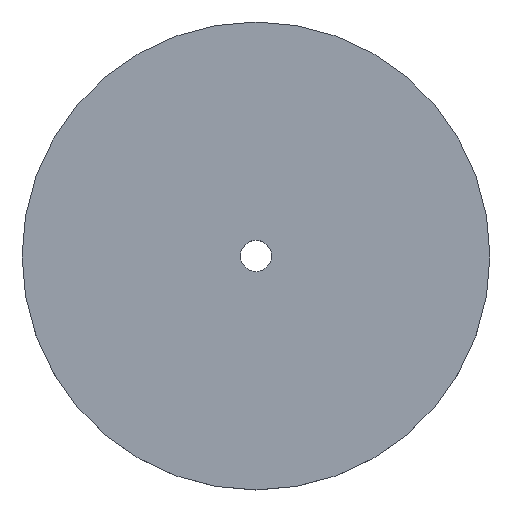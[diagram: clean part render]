
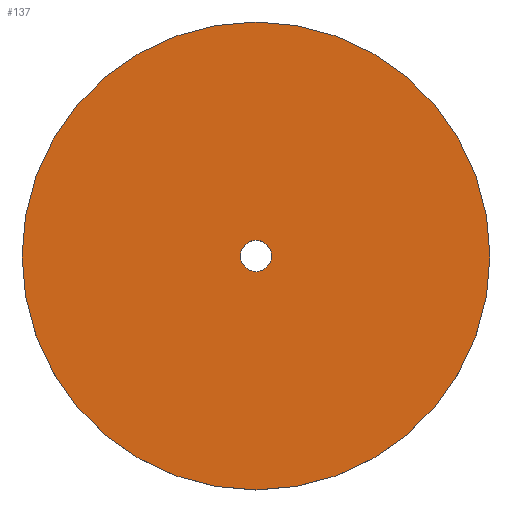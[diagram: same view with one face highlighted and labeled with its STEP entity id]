
A CAD part, top view. The second image highlights one B-rep face of the part: STEP entity #137.
In plain terms, the highlighted planar face has unit normal (0, 0, 1).
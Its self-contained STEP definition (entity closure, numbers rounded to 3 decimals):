
#3 = DIRECTION ( 'NONE',  ( 1., 0., 0. ) ) ;
#15 = CARTESIAN_POINT ( 'NONE',  ( 0., 0., 2. ) ) ;
#22 = DIRECTION ( 'NONE',  ( 0., 0., 1. ) ) ;
#23 = CARTESIAN_POINT ( 'NONE',  ( 0., 0., 2. ) ) ;
#26 = DIRECTION ( 'NONE',  ( 0., 0., 1. ) ) ;
#28 = DIRECTION ( 'NONE',  ( 1., 0., 0. ) ) ;
#35 = DIRECTION ( 'NONE',  ( 0., 0., 1. ) ) ;
#39 = CARTESIAN_POINT ( 'NONE',  ( 1., 0., 2. ) ) ;
#40 = DIRECTION ( 'NONE',  ( 1., 0., 0. ) ) ;
#41 = DIRECTION ( 'NONE',  ( 0., 0., 1. ) ) ;
#48 = PLANE ( 'NONE',  #110 ) ;
#50 = CARTESIAN_POINT ( 'NONE',  ( 0., 0., 2. ) ) ;
#54 = CARTESIAN_POINT ( 'NONE',  ( 0., 0., 2. ) ) ;
#56 = DIRECTION ( 'NONE',  ( 1., 0., 0. ) ) ;
#58 = CARTESIAN_POINT ( 'NONE',  ( 15., 0., 2. ) ) ;
#59 = CARTESIAN_POINT ( 'NONE',  ( 0., 0., 2. ) ) ;
#60 = CARTESIAN_POINT ( 'NONE',  ( -15., 0., 2. ) ) ;
#61 = CARTESIAN_POINT ( 'NONE',  ( -1., 0., 2. ) ) ;
#63 = DIRECTION ( 'NONE',  ( 0., 0., 1. ) ) ;
#71 = DIRECTION ( 'NONE',  ( 1., 0., 0. ) ) ;
#94 = EDGE_CURVE ( 'NONE', #145, #158, #185, .T. ) ;
#101 = EDGE_CURVE ( 'NONE', #162, #147, #192, .T. ) ;
#102 = EDGE_CURVE ( 'NONE', #147, #162, #190, .T. ) ;
#105 = EDGE_CURVE ( 'NONE', #158, #145, #209, .T. ) ;
#108 = AXIS2_PLACEMENT_3D ( 'NONE', #59, #41, #71 ) ;
#110 = AXIS2_PLACEMENT_3D ( 'NONE', #54, #35, #56 ) ;
#111 = AXIS2_PLACEMENT_3D ( 'NONE', #15, #26, #28 ) ;
#124 = AXIS2_PLACEMENT_3D ( 'NONE', #50, #63, #40 ) ;
#125 = AXIS2_PLACEMENT_3D ( 'NONE', #23, #22, #3 ) ;
#137 = ADVANCED_FACE ( 'NONE', ( #214, #205 ), #48, .T. ) ;
#143 = ORIENTED_EDGE ( 'NONE', *, *, #94, .T. ) ;
#145 = VERTEX_POINT ( 'NONE', #60 ) ;
#147 = VERTEX_POINT ( 'NONE', #61 ) ;
#148 = EDGE_LOOP ( 'NONE', ( #152, #180 ) ) ;
#152 = ORIENTED_EDGE ( 'NONE', *, *, #101, .F. ) ;
#155 = ORIENTED_EDGE ( 'NONE', *, *, #105, .T. ) ;
#158 = VERTEX_POINT ( 'NONE', #58 ) ;
#162 = VERTEX_POINT ( 'NONE', #39 ) ;
#174 = EDGE_LOOP ( 'NONE', ( #143, #155 ) ) ;
#180 = ORIENTED_EDGE ( 'NONE', *, *, #102, .F. ) ;
#185 = CIRCLE ( 'NONE', #125, 15. ) ;
#190 = CIRCLE ( 'NONE', #124, 1. ) ;
#192 = CIRCLE ( 'NONE', #111, 1. ) ;
#205 = FACE_OUTER_BOUND ( 'NONE', #174, .T. ) ;
#209 = CIRCLE ( 'NONE', #108, 15. ) ;
#214 = FACE_BOUND ( 'NONE', #148, .T. ) ;
